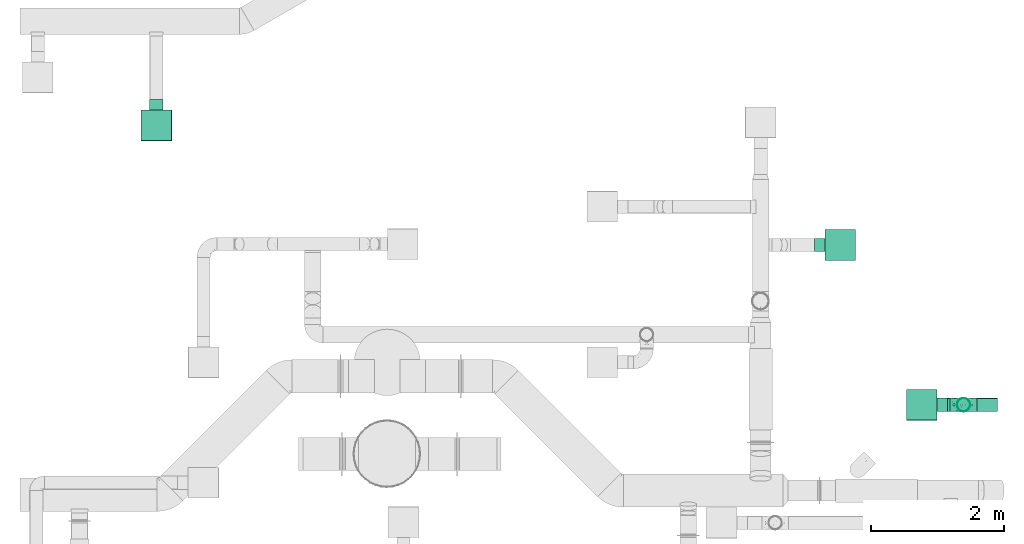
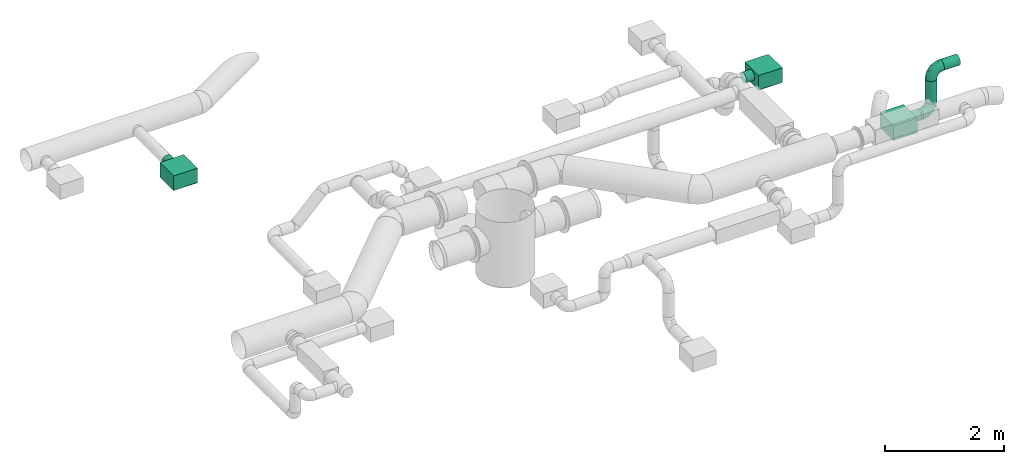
# One storey, part 24 of 31: 3 flow segments, 3 flow terminals, 2 flow fittings.
"""IFC2X3 building model written with IfcOpenShell, lengths in millimetres."""

from ifc_helpers import new_model, entity, si_unit, converted_unit, derived_unit, direction, frame, origin_with_axes, origin_2d_with_axis, place, context, subcontext, project, spatial, hollow_circle, extrude, open_shell, surface_model, source, transform, mapped, type_object, element, save


model = new_model("IFC2X3")

# Units and contexts
model_context = context("Model", 3, precision=0.01, world=frame((0.0, 4.29681676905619e-09, 0.0)), true_north=direction((4.01073788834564e-13, 1.0)))
plan_context = context("Plan", 3, precision=0.01, world=frame((0.0, 4.29681676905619e-09, 0.0)), true_north=direction((4.01073788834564e-13, 1.0)))
body_context = subcontext(model_context, "Body", "Model", "MODEL_VIEW")
ifc_project = project(units=[converted_unit("PLANEANGLEUNIT", "DEGREE", entity("IfcPositiveLengthMeasure", 0.0174532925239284), si_unit("PLANEANGLEUNIT", "RADIAN"), dimensions=[0, 0, 0, 0, 0, 0, 0]), si_unit("AREAUNIT", "SQUARE_METRE"), si_unit("LENGTHUNIT", "METRE", prefix="MILLI"), si_unit("MASSUNIT", "GRAM", prefix="KILO"), si_unit("POWERUNIT", "WATT"), si_unit("PRESSUREUNIT", "PASCAL", prefix="KILO"), si_unit("FORCEUNIT", "NEWTON", prefix="KILO"), si_unit("ELECTRICVOLTAGEUNIT", "VOLT"), si_unit("ELECTRICCURRENTUNIT", "AMPERE"), si_unit("THERMODYNAMICTEMPERATUREUNIT", "DEGREE_CELSIUS"), si_unit("TIMEUNIT", "SECOND"), si_unit("VOLUMEUNIT", "CUBIC_METRE"), derived_unit("LINEARVELOCITYUNIT", [(si_unit("LENGTHUNIT", "METRE"), 1), (si_unit("TIMEUNIT", "SECOND"), -1)]), derived_unit("VOLUMETRICFLOWRATEUNIT", [(si_unit("VOLUMEUNIT", "CUBIC_METRE"), 1), (si_unit("TIMEUNIT", "SECOND"), -1)]), derived_unit("THERMALTRANSMITTANCEUNIT", [(si_unit("POWERUNIT", "WATT"), 1), (si_unit("THERMODYNAMICTEMPERATUREUNIT", "KELVIN"), -1), (si_unit("AREAUNIT", "SQUARE_METRE"), -1)]), derived_unit("SOUNDPRESSUREUNIT", [(si_unit("PRESSUREUNIT", "PASCAL"), 1)])], contexts=[model_context, plan_context])

# Site, building, storey
site_placement = place(None, frame((0.0, -4.29681676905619e-09, 0.0), z_axis=(0.0, 0.0, 1.0), x_axis=(1.0, 0.0, 0.0)))
site = spatial("IfcSite", under=ifc_project, at=site_placement, CompositionType="ELEMENT")
building_placement = place(site_placement, frame((0.0, 4.29681676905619e-09, 0.0), z_axis=(0.0, 0.0, 1.0), x_axis=(1.0, 0.0, 0.0)))
building = spatial("IfcBuilding", under=site, at=building_placement, Name="mc-building", CompositionType="ELEMENT")
storey_placement = place(building_placement, frame((0.0, 0.0, 210900.0), z_axis=(0.0, 0.0, 1.0), x_axis=(1.0, 0.0, 0.0)))
storey = spatial("IfcBuildingStorey", under=building, at=storey_placement, Name="Nivå F", CompositionType="ELEMENT", Elevation=210900.0)

# Flow fittings
duct_fitting_type = type_object("IfcDuctFittingType", Name="magicirc_elbow_full_radius_001", PredefinedType="BEND")
shared_shape_1 = source(origin_with_axes(), body_context, "Body", "SurfaceModel", [
    surface_model("IfcShellBasedSurfaceModel", [(-200.0, 25.8819, -96.59259), (-200.0, 0.0, -100.0), (-200.0, 96.59259, -25.8819), (-200.0, 50.0, -86.60254), (-200.0, 70.71068, -70.71068), (-200.0, 86.60254, -50.0), (-200.0, 100.0, 0.0), (-200.0, -70.71068, -70.71068), (-200.0, -50.0, -86.60254), (-200.0, -25.8819, -96.59259), (-200.0, -86.60254, -50.0), (-200.0, -96.59259, -25.8819), (-200.0, -96.59259, 25.8819), (-200.0, -100.0, 0.0), (-200.0, 86.60254, 50.0), (-200.0, 96.59259, 25.8819), (-200.0, -50.0, 86.60254), (-200.0, 25.8819, 96.59259), (-200.0, 50.0, 86.60254), (-200.0, 70.71068, 70.71068), (-200.0, -86.60254, 50.0), (-200.0, -70.71068, 70.71068), (-200.0, -25.8819, 96.59259), (-200.0, 0.0, 100.0), (-25.8819, 200.0, -96.59259), (96.59259, 200.0, 25.8819), (0.0, 200.0, -100.0), (-70.71068, 200.0, -70.71068), (-50.0, 200.0, -86.60254), (-86.60254, 200.0, -50.0), (70.71068, 200.0, -70.71068), (25.8819, 200.0, -96.59259), (50.0, 200.0, -86.60254), (96.59259, 200.0, -25.8819), (86.60254, 200.0, -50.0), (100.0, 200.0, 0.0), (-96.59259, 200.0, -25.8819), (-100.0, 200.0, 0.0), (-96.59259, 200.0, 25.8819), (-86.60254, 200.0, 50.0), (-50.0, 200.0, 86.60254), (-25.8819, 200.0, 96.59259), (-70.71068, 200.0, 70.71068), (50.0, 200.0, 86.60254), (70.71068, 200.0, 70.71068), (86.60254, 200.0, 50.0), (25.8819, 200.0, 96.59259), (0.0, 200.0, 100.0), (-170.28345, -80.453, 57.20341), (-151.30505, -62.14272, 74.57098), (-141.47291, -94.23558, 0.0), (-152.48501, -91.13434, 31.26682), (-175.16033, -97.5535, 0.0), (49.44088, 33.32893, 0.0), (56.65771, 47.69157, 17.5513), (30.78646, 10.59845, 0.0), (-115.72747, -62.79147, 65.02361), (-110.24866, -47.46346, 77.46704), (-131.78251, -77.03572, 52.17296), (-155.84565, 81.73243, 67.52503), (-165.38682, 59.81194, 83.11685), (-153.53621, -15.46231, 97.89391), (-99.34826, -9.37473, 94.63603), (-109.04028, 19.17637, 99.9709), (-11.41001, 147.58509, 99.90915), (-66.65717, -62.98288, 31.65851), (-19.65477, -37.28433, 19.69829), (-42.80044, -46.52394, 38.2888), (-76.76667, -58.58513, 50.26593), (-107.75087, -80.71677, 29.70656), (-170.73585, -40.65955, 90.5511), (-172.81551, 101.70087, 19.84455), (-146.92494, 108.70969, 32.98808), (-141.22148, 119.0983, 0.0), (-63.14521, 144.11081, 85.31109), (-80.51529, 161.84448, 66.62709), (-89.41257, 123.59035, 75.49114), (-59.28706, 175.69502, 82.02298), (-159.40173, 10.55746, 99.80411), (77.16386, 85.19497, 0.0), (62.56216, 67.38452, 33.69402), (-101.70087, 172.81551, 19.84455), (-93.96462, 171.01, 43.43771), (-171.01, 93.96462, 43.43771), (-151.20277, 37.27353, 95.35782), (-100.76094, 141.8163, 52.73949), (-123.065, 123.065, 41.02461), (-115.71118, 115.71117, 58.92154), (-108.70969, 146.92494, 32.98808), (-169.09831, 104.89435, 0.0), (-126.3807, 68.32629, 87.09158), (-3.53309, 67.51081, 92.91692), (-29.40722, 29.40721, 91.09367), (0.78973, 37.96478, 81.45071), (-60.00062, -0.36077, 89.58959), (-67.88209, 21.58789, 97.54896), (62.32031, 154.13138, 74.86163), (-141.8163, 100.76094, 52.73949), (91.13434, 152.48501, 31.26682), (80.453, 170.28345, 57.20341), (-18.49849, -12.30744, 60.90175), (8.80323, 19.6267, 65.08263), (-25.42255, 3.46809, 77.76258), (-74.03921, 114.7783, 87.77152), (-87.24231, 87.48345, 91.33971), (-52.29396, 97.96814, 97.88047), (97.5535, 175.16033, 0.0), (15.66986, 158.34417, 98.04921), (39.67143, 143.40046, 88.65468), (-104.89435, 169.09831, 0.0), (-119.0983, 141.22148, 0.0), (-79.31604, 55.69606, 99.29154), (50.31225, 117.34231, 77.16335), (77.03572, 131.78251, 52.17296), (-113.91527, 94.9934, 76.65605), (64.93177, 92.97178, 51.47516), (47.72556, 81.69016, 66.67609), (40.01044, 43.97718, 50.57869), (-17.45546, -26.87288, 41.03287), (-127.86769, 127.86769, 19.95139), (-59.26195, -63.30237, 0.0), (-33.32893, -49.44088, 0.0), (-15.13235, 108.44666, 99.8016), (9.03102, 110.97634, 96.23014), (-35.35458, 66.6809, 99.29493), (-36.40308, 160.4143, 94.8486), (-32.26105, 126.83648, 98.54453), (5.63455, -13.55537, 26.35365), (8.74012, 0.17058, 45.65263), (46.65777, 40.2329, 34.44568), (80.66195, 107.48302, 29.60457), (85.69972, 113.33393, 0.0), (28.17336, 90.6004, 84.77214), (-103.20436, 61.65595, 95.02282), (-132.43349, -38.40548, 87.83865), (-113.33393, -85.69972, 0.0), (-87.1495, -28.94235, 83.35483), (-47.7214, -39.47514, 54.58142), (-52.3084, 125.73797, 93.79051), (25.86889, 52.68176, 71.74074), (63.30237, 59.26195, 0.0), (94.23558, 141.47291, 0.0), (29.54521, 14.24018, 30.32032), (-85.19497, -77.16386, 0.0), (-50.98503, -24.63183, 71.83876), (-81.69017, -47.72556, 66.67609), (-10.59845, -30.78646, 0.0), (12.13203, -12.13203, 0.0), (-160.4143, 36.40307, -94.8486), (-126.83648, 32.26105, -98.54453), (-147.58509, 11.41001, -99.90915), (-59.81194, 165.3868, -83.11686), (-158.34417, -15.66986, -98.0492), (-110.97634, -9.03102, -96.23014), (12.30745, 18.4985, -60.90175), (-19.62669, -8.80321, -65.08265), (-3.46809, 25.42255, -77.76258), (-114.7783, 74.03921, -87.77153), (-87.48346, 87.2423, -91.33971), (-97.96814, 52.29396, -97.88047), (-172.81551, 101.70087, -19.84455), (13.55537, -5.63454, -26.35364), (-0.17055, -8.74011, -45.6526), (26.87289, 17.45547, -41.03286), (-146.92494, 108.70969, -32.98808), (-47.69157, -56.65771, -17.5513), (-123.06501, 123.065, -41.02461), (-127.86769, 127.86769, -19.95139), (-108.70969, 146.92494, -32.98808), (-175.69502, 59.28706, -82.02298), (-161.84448, 80.51529, -66.62709), (-144.11081, 63.14521, -85.31109), (62.98288, 66.65718, -31.65851), (-81.73243, 155.84565, -67.52503), (-141.8163, 100.76093, -52.73949), (-171.01, 93.96462, -43.43771), (-55.69606, 79.31604, -99.29154), (-66.68089, 35.35458, -99.29493), (-152.48501, -91.13434, -31.26682), (-170.28345, -80.45301, -57.20341), (-92.97178, -64.93177, -51.47516), (-81.69017, -47.72556, -66.67608), (-43.97716, -40.01043, -50.57869), (-10.55746, 159.40173, -99.80411), (15.46231, 153.53621, -97.89391), (-154.13138, -62.32031, -74.86163), (-143.40046, -39.67143, -88.65468), (-37.27353, 151.20276, -95.35782), (-107.48302, -80.66195, -29.60457), (0.36078, 60.00061, -89.58959), (-29.40721, 29.40721, -91.09366), (-21.58789, 67.88208, -97.54896), (-100.76094, 141.8163, -52.73949), (-93.96462, 171.01, -43.43771), (-101.70087, 172.81551, -19.84455), (-19.17637, 109.04027, -99.9709), (-123.59035, 89.41257, -75.49114), (62.14272, 151.30505, -74.57098), (40.65955, 170.73585, -90.5511), (46.52395, 42.80044, -38.28881), (37.28435, 19.6548, -19.69829), (-68.3263, 126.38069, -87.09158), (-67.51081, 3.53309, -92.91692), (-37.96476, -0.78971, -81.45071), (58.58512, 76.76664, -50.26592), (-67.38452, -62.56216, -33.69402), (80.45301, 170.28345, -57.20341), (80.71677, 107.75087, -29.70656), (38.40548, 132.43348, -87.83865), (62.79147, 115.72747, -65.02361), (47.46347, 110.24866, -77.46703), (91.13434, 152.48501, -31.26682), (-40.2329, -46.65777, -34.44568), (-90.60041, -28.17337, -84.77214), (77.03572, 131.78251, -52.17296), (9.37473, 99.34825, -94.63603), (-117.34231, -50.31225, -77.16335), (-131.78251, -77.03572, -52.17296), (-94.99341, 113.91526, -76.65605), (-108.44666, 15.13234, -99.8016), (-61.65596, 103.20434, -95.02282), (28.94235, 87.1495, -83.35483), (39.47513, 47.72139, -54.58143), (-125.73797, 52.30839, -93.79051), (-52.68177, -25.86889, -71.74075), (-115.71118, 115.71117, -58.92154), (-14.24018, -29.54521, -30.32033), (24.63182, 50.98504, -71.83876), (47.72556, 81.69017, -66.67609)], [open_shell([[[0, 1, 2]], [[3, 0, 4]], [[2, 5, 4]], [[0, 2, 4]], [[6, 1, 7]], [[8, 7, 9]], [[7, 1, 9]], [[10, 11, 7]], [[12, 11, 13]], [[12, 7, 11]], [[2, 1, 6]], [[14, 15, 6]], [[16, 14, 7]], [[14, 17, 18]], [[19, 14, 18]], [[17, 14, 16]], [[20, 21, 12]], [[16, 12, 21]], [[16, 22, 17]], [[16, 7, 12]], [[17, 22, 23]], [[14, 6, 7]], [[24, 25, 26]], [[27, 24, 28]], [[25, 27, 29]], [[24, 27, 25]], [[30, 26, 25]], [[31, 30, 32]], [[31, 26, 30]], [[30, 33, 34]], [[35, 33, 25]], [[33, 30, 25]], [[25, 29, 36]], [[37, 38, 39]], [[25, 37, 39]], [[40, 41, 39]], [[40, 39, 42]], [[43, 39, 41]], [[25, 44, 45]], [[44, 25, 43]], [[41, 46, 43]], [[43, 25, 39]], [[47, 46, 41]], [[37, 25, 36]], [[21, 48, 49]], [[50, 51, 52]], [[53, 54, 55]], [[56, 57, 49]], [[48, 51, 58]], [[59, 19, 60]], [[61, 62, 63]], [[47, 41, 64]], [[65, 66, 67]], [[68, 69, 65]], [[16, 21, 49]], [[19, 18, 60]], [[16, 70, 22]], [[71, 72, 73]], [[74, 75, 76]], [[77, 40, 42]], [[19, 59, 14]], [[23, 78, 17]], [[54, 79, 80]], [[38, 81, 82]], [[70, 61, 22]], [[21, 20, 48]], [[83, 15, 14]], [[83, 72, 71]], [[84, 18, 17]], [[6, 15, 71]], [[85, 86, 87]], [[85, 82, 88]], [[71, 73, 89]], [[22, 61, 23]], [[90, 60, 84]], [[91, 92, 93]], [[65, 67, 68]], [[94, 92, 95]], [[43, 96, 44]], [[97, 72, 83]], [[25, 45, 98]], [[44, 99, 45]], [[75, 42, 39]], [[100, 101, 102]], [[103, 104, 105]], [[98, 106, 25]], [[46, 107, 108]], [[108, 96, 43]], [[109, 110, 81]], [[104, 111, 105]], [[112, 113, 96]], [[98, 45, 99]], [[114, 59, 90]], [[108, 43, 46]], [[115, 116, 117]], [[88, 81, 110]], [[67, 66, 118]], [[110, 73, 119]], [[109, 81, 37]], [[95, 111, 63]], [[120, 121, 65]], [[86, 119, 72]], [[122, 123, 64]], [[111, 124, 105]], [[75, 74, 77]], [[64, 125, 126]], [[127, 128, 118]], [[80, 129, 54]], [[41, 40, 125]], [[125, 64, 41]], [[123, 107, 64]], [[98, 130, 131]], [[132, 108, 123]], [[47, 107, 46]], [[78, 23, 61]], [[20, 12, 51]], [[133, 63, 111]], [[130, 98, 113]], [[115, 117, 80]], [[82, 39, 38]], [[75, 85, 76]], [[62, 61, 134]], [[78, 63, 84]], [[56, 49, 58]], [[70, 49, 134]], [[51, 12, 52]], [[51, 135, 69]], [[115, 130, 113]], [[82, 81, 88]], [[62, 136, 94]], [[62, 94, 95]], [[67, 118, 137]], [[69, 58, 51]], [[77, 125, 40]], [[126, 138, 105]], [[112, 96, 108]], [[99, 96, 113]], [[117, 116, 139]], [[66, 127, 118]], [[92, 102, 93]], [[92, 94, 102]], [[63, 78, 61]], [[84, 17, 78]], [[64, 107, 47]], [[108, 107, 123]], [[84, 60, 18]], [[59, 60, 90]], [[87, 114, 76]], [[104, 103, 114]], [[114, 87, 97]], [[104, 114, 90]], [[63, 133, 84]], [[138, 103, 105]], [[90, 133, 104]], [[63, 62, 95]], [[91, 124, 92]], [[122, 64, 126]], [[92, 124, 95]], [[111, 95, 124]], [[140, 79, 54]], [[131, 141, 98]], [[88, 86, 85]], [[75, 39, 82]], [[76, 85, 87]], [[75, 82, 85]], [[14, 59, 83]], [[97, 87, 86]], [[83, 59, 97]], [[114, 97, 59]], [[117, 142, 129]], [[65, 69, 143]], [[136, 62, 134]], [[102, 101, 93]], [[144, 94, 136]], [[137, 100, 144]], [[57, 136, 134]], [[136, 145, 144]], [[101, 139, 93]], [[91, 132, 123]], [[93, 139, 132]], [[91, 123, 122]], [[93, 132, 91]], [[132, 116, 112]], [[144, 100, 102]], [[128, 100, 118]], [[144, 102, 94]], [[137, 144, 145]], [[137, 145, 68]], [[100, 137, 118]], [[56, 68, 145]], [[69, 68, 58]], [[101, 128, 117]], [[132, 139, 116]], [[101, 117, 139]], [[129, 80, 117]], [[68, 67, 137]], [[65, 143, 120]], [[127, 146, 147]], [[55, 127, 147]], [[66, 146, 127]], [[128, 127, 142]], [[117, 128, 142]], [[100, 128, 101]], [[138, 125, 74]], [[122, 105, 124]], [[105, 122, 126]], [[91, 122, 124]], [[125, 138, 126]], [[138, 74, 103]], [[74, 76, 103]], [[114, 103, 76]], [[132, 112, 108]], [[112, 116, 115]], [[12, 13, 52]], [[106, 98, 141]], [[106, 35, 25]], [[37, 81, 38]], [[88, 110, 119]], [[97, 86, 72]], [[72, 119, 73]], [[88, 119, 86]], [[6, 71, 89]], [[83, 71, 15]], [[75, 77, 42]], [[125, 77, 74]], [[49, 70, 16]], [[61, 70, 134]], [[51, 48, 20]], [[49, 48, 58]], [[96, 99, 44]], [[98, 99, 113]], [[80, 79, 130]], [[130, 115, 80]], [[112, 115, 113]], [[68, 56, 58]], [[57, 56, 145]], [[136, 57, 145]], [[49, 57, 134]], [[65, 121, 66]], [[127, 55, 142]], [[84, 133, 90]], [[111, 104, 133]], [[130, 79, 131]], [[135, 51, 50]], [[135, 143, 69]], [[142, 55, 54]], [[142, 54, 129]], [[140, 54, 53]], [[66, 121, 146]], [[148, 149, 150]], [[28, 151, 27]], [[152, 150, 153]], [[154, 155, 156]], [[150, 0, 148]], [[157, 158, 159]], [[89, 160, 6]], [[161, 162, 163]], [[164, 160, 73]], [[121, 165, 146]], [[166, 167, 168]], [[169, 170, 171]], [[140, 53, 172]], [[27, 173, 29]], [[174, 175, 164]], [[176, 177, 159]], [[178, 10, 179]], [[180, 181, 182]], [[178, 52, 11]], [[183, 26, 184]], [[185, 8, 186]], [[0, 3, 148]], [[9, 186, 8]], [[187, 28, 24]], [[31, 184, 26]], [[178, 11, 10]], [[179, 10, 7]], [[178, 188, 135]], [[7, 8, 185]], [[152, 186, 9]], [[189, 190, 191]], [[158, 176, 159]], [[167, 73, 110]], [[192, 168, 193]], [[166, 168, 192]], [[193, 36, 29]], [[36, 194, 37]], [[191, 176, 195]], [[171, 170, 196]], [[194, 193, 168]], [[160, 175, 2]], [[197, 32, 30]], [[198, 184, 31]], [[173, 27, 151]], [[169, 3, 4]], [[26, 183, 24]], [[199, 200, 163]], [[187, 201, 151]], [[202, 190, 203]], [[31, 32, 198]], [[199, 172, 200]], [[172, 199, 204]], [[165, 143, 205]], [[30, 34, 206]], [[207, 172, 204]], [[89, 73, 160]], [[198, 197, 208]], [[9, 1, 152]], [[209, 210, 197]], [[170, 4, 5]], [[211, 106, 141]], [[205, 212, 165]], [[213, 186, 153]], [[211, 214, 206]], [[34, 33, 211]], [[215, 195, 184]], [[194, 168, 110]], [[1, 0, 150]], [[216, 217, 185]], [[194, 110, 109]], [[218, 173, 201]], [[219, 153, 150]], [[220, 195, 176]], [[188, 178, 217]], [[180, 182, 205]], [[175, 5, 2]], [[170, 174, 196]], [[206, 197, 30]], [[209, 197, 214]], [[215, 184, 208]], [[183, 195, 187]], [[211, 33, 106]], [[211, 131, 207]], [[180, 188, 217]], [[33, 35, 106]], [[215, 221, 189]], [[215, 189, 191]], [[199, 163, 222]], [[207, 214, 211]], [[169, 148, 3]], [[149, 223, 159]], [[216, 185, 186]], [[179, 185, 217]], [[182, 181, 224]], [[200, 161, 163]], [[190, 156, 203]], [[190, 189, 156]], [[195, 183, 184]], [[187, 24, 183]], [[150, 152, 1]], [[186, 152, 153]], [[187, 151, 28]], [[173, 151, 201]], [[225, 218, 196]], [[158, 157, 218]], [[218, 225, 192]], [[158, 218, 201]], [[195, 220, 187]], [[223, 157, 159]], [[201, 220, 158]], [[195, 215, 191]], [[202, 177, 190]], [[219, 150, 149]], [[190, 177, 191]], [[176, 191, 177]], [[120, 143, 165]], [[135, 50, 178]], [[164, 166, 174]], [[170, 5, 175]], [[196, 174, 225]], [[170, 175, 174]], [[29, 173, 193]], [[192, 225, 166]], [[193, 173, 192]], [[218, 192, 173]], [[182, 226, 212]], [[172, 207, 79]], [[221, 215, 208]], [[156, 155, 203]], [[227, 189, 221]], [[222, 154, 227]], [[210, 221, 208]], [[221, 228, 227]], [[155, 224, 203]], [[202, 213, 153]], [[203, 224, 213]], [[202, 153, 219]], [[203, 213, 202]], [[213, 181, 216]], [[227, 154, 156]], [[162, 154, 163]], [[227, 156, 189]], [[222, 227, 228]], [[222, 228, 204]], [[154, 222, 163]], [[209, 204, 228]], [[207, 204, 214]], [[155, 162, 182]], [[213, 224, 181]], [[155, 182, 224]], [[212, 205, 182]], [[204, 199, 222]], [[172, 79, 140]], [[161, 55, 147]], [[146, 161, 147]], [[200, 55, 161]], [[162, 161, 226]], [[182, 162, 226]], [[154, 162, 155]], [[223, 148, 171]], [[219, 159, 177]], [[159, 219, 149]], [[202, 219, 177]], [[148, 223, 149]], [[223, 171, 157]], [[171, 196, 157]], [[218, 157, 196]], [[213, 216, 186]], [[216, 181, 180]], [[52, 178, 50]], [[52, 13, 11]], [[175, 160, 164]], [[6, 160, 2]], [[174, 166, 225]], [[167, 164, 73]], [[168, 167, 110]], [[164, 167, 166]], [[37, 194, 109]], [[193, 194, 36]], [[170, 169, 4]], [[148, 169, 171]], [[197, 198, 32]], [[184, 198, 208]], [[211, 206, 34]], [[197, 206, 214]], [[185, 179, 7]], [[178, 179, 217]], [[205, 143, 188]], [[188, 180, 205]], [[216, 180, 217]], [[204, 209, 214]], [[210, 209, 228]], [[221, 210, 228]], [[197, 210, 208]], [[172, 53, 200]], [[161, 146, 226]], [[187, 220, 201]], [[176, 158, 220]], [[188, 143, 135]], [[131, 211, 141]], [[131, 79, 207]], [[226, 146, 165]], [[226, 165, 212]], [[120, 165, 121]], [[200, 53, 55]]])]),
])
for number, where, z_axis, x_axis, name in (
    (1, (728638.4686, 439785.48016, 2965.0), (0.0, -1.0, 0.0), (1.0, 0.0, 0.0), "magicirc_elbow_full_radius_001"),
    (2, (728638.4686, 439785.48016, 3825.0), (0.0, 1.0, 0.0), (0.0, 0.0, 1.0), "magicirc_elbow_full_radius_001"),
):
    element("IfcFlowFitting", number, at=place(storey_placement, frame(where, z_axis=z_axis, x_axis=x_axis)), inside=storey, type_object=duct_fitting_type, Name=name, context=body_context, shape_type="MappedRepresentation", body=[
        mapped(shared_shape_1, transform((0.0, 0.0, 0.0), scale=1.0)),
    ])

# Flow segments
duct_segment_type = type_object("IfcDuctSegmentType", Name="KK001T - Spiro kanaler, Forsinket stål", PredefinedType="RIGIDSEGMENT")
shared_shape_2 = source(origin_with_axes(), body_context, "Body", "SweptSolid", [
    extrude(hollow_circle(Radius=100.0, WallThickness=2.0, at=origin_2d_with_axis()), frame((0.0, 0.0, 0.0), z_axis=(1.0, 0.0, 0.0), x_axis=(0.0, 1.0, 0.0)), (0.0, 0.0, 1.0), 40.0),
])
flow_segment_1_placement = place(storey_placement, frame((728398.4686, 439785.48016, 2965.0), z_axis=(0.0, 0.0, 1.0), x_axis=(1.0, 0.0, 0.0)))
element("IfcFlowSegment", 3, at=flow_segment_1_placement, inside=storey, type_object=duct_segment_type, Name="KK001T - Spiro kanaler, Forsinket stål", context=body_context, shape_type="MappedRepresentation", body=[
    mapped(shared_shape_2, transform((0.0, 0.0, 0.0), scale=1.0, scale2=1.0, scale3=1.0, uniform=False)),
])
shared_shape_3 = source(origin_with_axes(), body_context, "Body", "SweptSolid", [
    extrude(hollow_circle(Radius=100.0, WallThickness=2.0, at=origin_2d_with_axis()), frame((0.0, 0.0, 0.0), z_axis=(1.0, 0.0, 0.0), x_axis=(0.0, 1.0, 0.0)), (0.0, 0.0, 1.0), 313.3),
])
flow_segment_2_placement = place(storey_placement, frame((729151.72517, 439785.48016, 3825.0), z_axis=(0.0, 0.0, 1.0), x_axis=(-1.0, 0.0, 0.0)))
element("IfcFlowSegment", 4, at=flow_segment_2_placement, inside=storey, type_object=duct_segment_type, Name="KK001T - Spiro kanaler, Forsinket stål", context=body_context, shape_type="MappedRepresentation", body=[
    mapped(shared_shape_3, transform((0.0, 0.0, 0.0), scale=1.0)),
])
shared_shape_4 = source(origin_with_axes(), body_context, "Body", "SweptSolid", [
    extrude(hollow_circle(Radius=100.0, WallThickness=2.0, at=origin_2d_with_axis()), frame((0.0, 0.0, 0.0), z_axis=(1.0, 0.0, 0.0), x_axis=(0.0, 1.0, 0.0)), (0.0, 0.0, 1.0), 460.0),
])
flow_segment_3_placement = place(storey_placement, frame((728638.4686, 439785.48016, 3165.0), z_axis=(-1.0, 0.0, 0.0), x_axis=(0.0, 0.0, 1.0)))
element("IfcFlowSegment", 5, at=flow_segment_3_placement, inside=storey, type_object=duct_segment_type, Name="KK001T - Spiro kanaler, Forsinket stål", context=body_context, shape_type="MappedRepresentation", body=[
    mapped(shared_shape_4, transform((0.0, 0.0, 0.0), scale=1.0)),
])

# Flow terminals
air_terminal_type = type_object("IfcAirTerminalType", Name="NS19-H-S-2-200 - 4-way", PredefinedType="NOTDEFINED")
shared_shape_5 = source(origin_with_axes(), body_context, "Body", "SurfaceModel", [
    surface_model("IfcShellBasedSurfaceModel", [(-231.99999, 231.99999, 0.0), (-231.99999, -231.99999, 0.0), (231.99999, -231.99999, 0.0), (231.99999, 231.99999, 0.0), (231.99999, 231.99999, -10.0), (231.99999, -231.99999, -10.0), (-231.99999, -231.99999, -10.0), (-231.99999, 231.99999, -10.0), (-230.0, 230.0, 289.99999), (-230.0, -230.0, 289.99999), (230.0, -230.0, 289.99999), (230.0, 230.0, 289.99999), (230.0, 230.0, 0.0), (230.0, -230.0, 0.0), (-230.0, -230.0, 0.0), (-230.0, 230.0, 0.0), (-230.0, 50.0, 78.39746), (-230.0, 70.71068, 94.28932), (-230.0, 49.9, 78.57067), (-230.0, 25.83014, 68.6006), (-230.0, 0.0, 65.2), (-230.0, 25.8819, 68.40742), (-230.0, 0.0, 65.0), (-230.0, 70.56926, 94.43075), (-230.0, 96.59259, 139.1181), (-230.0, 99.8, 164.99999), (-230.0, 96.39939, 139.16986), (-230.0, 100.0, 164.99999), (-230.0, 86.60254, 115.0), (-230.0, 86.42934, 115.1), (-230.0, -25.83014, 68.6006), (-230.0, -25.8819, 68.40742), (-230.0, -49.9, 78.57067), (-230.0, -70.71068, 94.28932), (-230.0, -50.0, 78.39746), (-230.0, -70.56926, 94.43075), (-230.0, -86.42934, 115.1), (-230.0, -86.60254, 115.0), (-230.0, -96.39939, 139.16986), (-230.0, -96.59259, 139.1181), (-230.0, -99.8, 164.99999), (-230.0, -100.0, 164.99999), (-230.0, 96.59259, 190.8819), (-230.0, 96.39939, 190.83014), (-230.0, 86.42934, 214.9), (-230.0, 86.60254, 214.99999), (-230.0, 70.56926, 235.56925), (-230.0, 70.71068, 235.71069), (-230.0, 50.0, 251.60254), (-230.0, 49.9, 251.42933), (-230.0, 25.83014, 261.3994), (-230.0, 25.8819, 261.59259), (-230.0, 0.0, 264.80001), (-230.0, 0.0, 264.99999), (-230.0, -86.60254, 214.99999), (-230.0, -86.42934, 214.9), (-230.0, -70.71068, 235.71069), (-230.0, -70.56926, 235.56925), (-230.0, -96.59259, 190.8819), (-230.0, -96.39939, 190.83014), (-230.0, -25.83014, 261.3994), (-230.0, -25.8819, 261.59259), (-230.0, -49.9, 251.42933), (-230.0, -50.0, 251.60254), (-390.0, 50.0, 251.60254), (-390.0, 70.71068, 235.71069), (-390.0, 49.9, 251.42933), (-390.0, 25.83014, 261.3994), (-390.0, 0.0, 264.80001), (-390.0, 25.8819, 261.59259), (-390.0, 0.0, 264.99999), (-390.0, 70.56926, 235.56925), (-390.0, 96.59259, 190.8819), (-390.0, 99.8, 164.99999), (-390.0, 96.39939, 190.83014), (-390.0, 100.0, 164.99999), (-390.0, 86.60254, 214.99999), (-390.0, 86.42934, 214.9), (-390.0, -25.83014, 261.3994), (-390.0, -25.8819, 261.59259), (-390.0, -49.9, 251.42933), (-390.0, -70.71068, 235.71069), (-390.0, -50.0, 251.60254), (-390.0, -70.56926, 235.56925), (-390.0, -86.42934, 214.9), (-390.0, -86.60254, 214.99999), (-390.0, -96.39939, 190.83014), (-390.0, -96.59259, 190.8819), (-390.0, -99.8, 164.99999), (-390.0, -100.0, 164.99999), (-390.0, 96.59259, 139.1181), (-390.0, 96.39939, 139.16986), (-390.0, 86.42934, 115.1), (-390.0, 86.60254, 115.0), (-390.0, 70.56926, 94.43075), (-390.0, 70.71068, 94.28932), (-390.0, 50.0, 78.39746), (-390.0, 49.9, 78.57067), (-390.0, 25.83014, 68.6006), (-390.0, 25.8819, 68.40742), (-390.0, 0.0, 65.2), (-390.0, 0.0, 65.0), (-390.0, -86.60254, 115.0), (-390.0, -86.42934, 115.1), (-390.0, -70.71068, 94.28932), (-390.0, -70.56926, 94.43075), (-390.0, -96.59259, 139.1181), (-390.0, -96.39939, 139.16986), (-390.0, -25.83014, 68.6006), (-390.0, -25.8819, 68.40742), (-390.0, -49.9, 78.57067), (-390.0, -50.0, 78.39746)], [open_shell([[[0, 1, 2]], [[2, 3, 0]], [[4, 5, 6]], [[6, 7, 4]], [[2, 1, 6]], [[6, 5, 2]], [[3, 2, 5]], [[5, 4, 3]], [[0, 3, 4]], [[4, 7, 0]], [[1, 0, 7]], [[7, 6, 1]], [[8, 9, 10]], [[10, 11, 8]], [[12, 13, 14]], [[14, 15, 12]], [[10, 9, 13]], [[14, 13, 9]], [[11, 10, 12]], [[13, 12, 10]], [[8, 11, 15]], [[12, 15, 11]], [[9, 8, 14]], [[15, 14, 8]], [[16, 17, 18]], [[16, 18, 19]], [[20, 21, 19]], [[21, 20, 22]], [[19, 21, 16]], [[18, 17, 23]], [[24, 25, 26]], [[25, 24, 27]], [[24, 26, 28]], [[23, 28, 29]], [[28, 23, 17]], [[29, 28, 26]], [[22, 30, 31]], [[31, 30, 32]], [[33, 34, 35]], [[32, 34, 31]], [[32, 35, 34]], [[22, 20, 30]], [[36, 37, 33]], [[37, 36, 38]], [[36, 33, 35]], [[39, 38, 40]], [[38, 39, 37]], [[39, 40, 41]], [[27, 42, 43]], [[43, 42, 44]], [[44, 45, 46]], [[45, 44, 42]], [[46, 45, 47]], [[47, 48, 49]], [[49, 48, 50]], [[50, 51, 52]], [[51, 50, 48]], [[52, 51, 53]], [[49, 46, 47]], [[54, 55, 56]], [[56, 55, 57]], [[55, 54, 58]], [[41, 59, 58]], [[58, 59, 55]], [[41, 40, 59]], [[60, 53, 61]], [[60, 61, 62]], [[57, 63, 56]], [[57, 62, 63]], [[63, 62, 61]], [[52, 53, 60]], [[43, 25, 27]], [[64, 65, 66]], [[64, 66, 67]], [[68, 69, 67]], [[69, 68, 70]], [[67, 69, 64]], [[66, 65, 71]], [[72, 73, 74]], [[73, 72, 75]], [[72, 74, 76]], [[71, 76, 77]], [[76, 71, 65]], [[77, 76, 74]], [[70, 78, 79]], [[79, 78, 80]], [[81, 82, 83]], [[80, 82, 79]], [[80, 83, 82]], [[70, 68, 78]], [[84, 85, 81]], [[85, 84, 86]], [[84, 81, 83]], [[87, 86, 88]], [[86, 87, 85]], [[87, 88, 89]], [[75, 90, 91]], [[91, 90, 92]], [[92, 93, 94]], [[93, 92, 90]], [[94, 93, 95]], [[95, 96, 97]], [[97, 96, 98]], [[98, 99, 100]], [[99, 98, 96]], [[100, 99, 101]], [[97, 94, 95]], [[102, 103, 104]], [[104, 103, 105]], [[103, 102, 106]], [[89, 107, 106]], [[106, 107, 103]], [[89, 88, 107]], [[108, 101, 109]], [[108, 109, 110]], [[105, 111, 104]], [[105, 110, 111]], [[111, 110, 109]], [[100, 101, 108]], [[91, 73, 75]], [[39, 106, 102]], [[104, 37, 102]], [[34, 111, 109]], [[104, 111, 33]], [[31, 109, 101]], [[106, 41, 89]], [[106, 39, 41]], [[102, 37, 39]], [[104, 33, 37]], [[34, 33, 111]], [[109, 31, 34]], [[101, 22, 31]], [[21, 99, 96]], [[95, 16, 96]], [[28, 93, 90]], [[95, 93, 17]], [[24, 90, 75]], [[99, 21, 22]], [[96, 16, 21]], [[95, 17, 16]], [[93, 28, 17]], [[24, 28, 90]], [[75, 27, 24]], [[99, 22, 101]], [[75, 72, 42]], [[48, 64, 69]], [[64, 47, 65]], [[51, 69, 70]], [[72, 45, 42]], [[42, 27, 75]], [[76, 47, 45]], [[76, 65, 47]], [[47, 64, 48]], [[69, 51, 48]], [[76, 45, 72]], [[70, 53, 51]], [[61, 79, 82]], [[81, 63, 82]], [[54, 85, 87]], [[81, 85, 56]], [[58, 87, 89]], [[79, 61, 53]], [[82, 63, 61]], [[81, 56, 63]], [[85, 54, 56]], [[58, 54, 87]], [[89, 41, 58]], [[79, 53, 70]], [[103, 107, 38]], [[103, 36, 105]], [[108, 110, 32]], [[35, 110, 105]], [[100, 108, 30]], [[88, 40, 107]], [[40, 38, 107]], [[38, 36, 103]], [[36, 35, 105]], [[110, 35, 32]], [[32, 30, 108]], [[30, 20, 100]], [[97, 98, 19]], [[97, 18, 94]], [[91, 92, 29]], [[23, 92, 94]], [[73, 91, 26]], [[20, 19, 98]], [[19, 18, 97]], [[18, 23, 94]], [[23, 29, 92]], [[91, 29, 26]], [[26, 25, 73]], [[100, 20, 98]], [[43, 74, 73]], [[67, 66, 49]], [[71, 46, 66]], [[68, 67, 50]], [[43, 44, 74]], [[73, 25, 43]], [[44, 46, 77]], [[46, 71, 77]], [[49, 66, 46]], [[49, 50, 67]], [[74, 44, 77]], [[50, 52, 68]], [[80, 78, 60]], [[80, 62, 83]], [[86, 84, 55]], [[57, 84, 83]], [[88, 86, 59]], [[52, 60, 78]], [[60, 62, 80]], [[62, 57, 83]], [[57, 55, 84]], [[86, 55, 59]], [[59, 40, 88]], [[68, 52, 78]]])]),
])
for number, where, z_axis, x_axis in (
    (6, (716490.41709, 443991.96456, 3254.98813000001), (0.0, 0.0, 1.0), (0.0, -1.0, 0.0)),
    (7, (726782.66617, 442191.19778, 2799.98813000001), (0.0, 0.0, 1.0), (1.0, 0.0, 0.0)),
    (8, (728008.44052, 439785.48016, 2799.98813000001), (0.0, 0.0, 1.0), (-1.0, 0.0, 0.0)),
):
    element("IfcFlowTerminal", number, at=place(storey_placement, frame(where, z_axis=z_axis, x_axis=x_axis)), inside=storey, type_object=air_terminal_type, Name="NS19-H-S-2-200 - 4-way", context=body_context, shape_type="MappedRepresentation", body=[
        mapped(shared_shape_5, transform((0.0, 0.0, 0.0), scale=1.0)),
    ])

save(model, "model.ifc")
